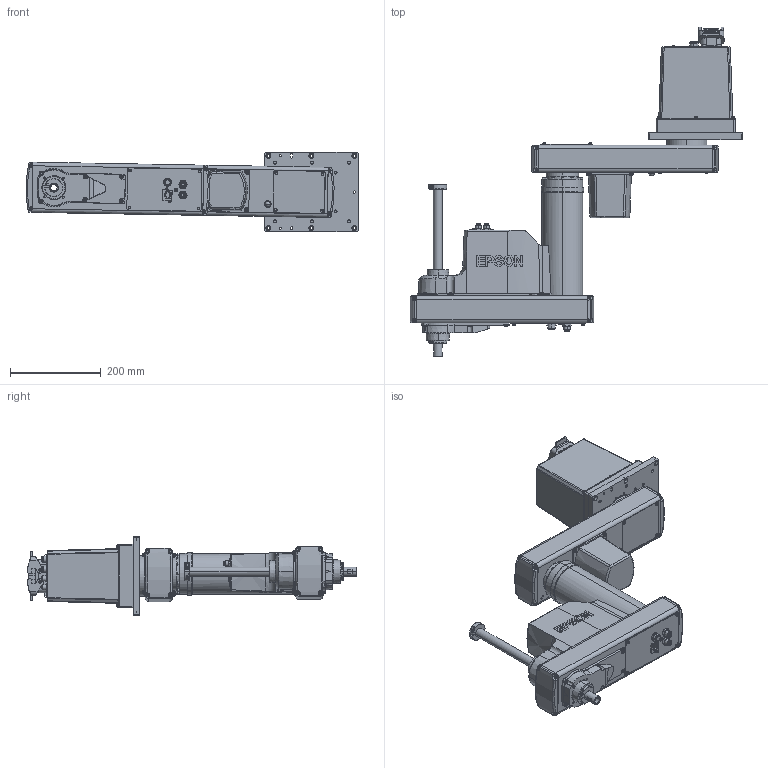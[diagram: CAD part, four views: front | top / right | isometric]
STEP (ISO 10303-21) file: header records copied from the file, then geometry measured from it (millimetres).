
FILE_DESCRIPTION (( 'STEP AP214' ), '1' );
FILE_NAME ('RS6-x552S.STEP', '2025-11-21T21:17:55', ( '' ), ( '' ), 'SwSTEP 2.0', 'SolidWorks 2020', '' );
FILE_SCHEMA (( 'AUTOMOTIVE_DESIGN' ));
Length unit declared in the file: millimetre
Products named in the file (5): RS6-C552S-Z_AXIS_SHAFT; RS6-C552S-J2_ARM; RS6-C552S-BOX; RS6-C552S-J1_ARM; RS6-x552S
Assembly tree (4 placements, depth 2):
  RS6-x552S
    RS6-C552S-BOX
    RS6-C552S-J1_ARM
    RS6-C552S-J2_ARM
    RS6-C552S-Z_AXIS_SHAFT
Bounding box: 733.52 x 727.4 x 175 mm (x, y, z)
Volume: 10446158.3 mm3; surface area: 787711.2 mm2
Topology: 3 solids, 4 shells, 3106 faces, 7897 edges, 5191 vertices
Faces by surface type: plane 1393, cylinder 1127, cone 344, torus 200, sphere 22, bspline 20
Entity records: 140824 total; most frequent: CARTESIAN_POINT 52333, ORIENTED_EDGE 15786, DIRECTION 11965, EDGE_CURVE 7893, VERTEX_POINT 5189, AXIS2_PLACEMENT_3D 4925, B_SPLINE_CURVE_WITH_KNOTS 3945, EDGE_LOOP 3544
